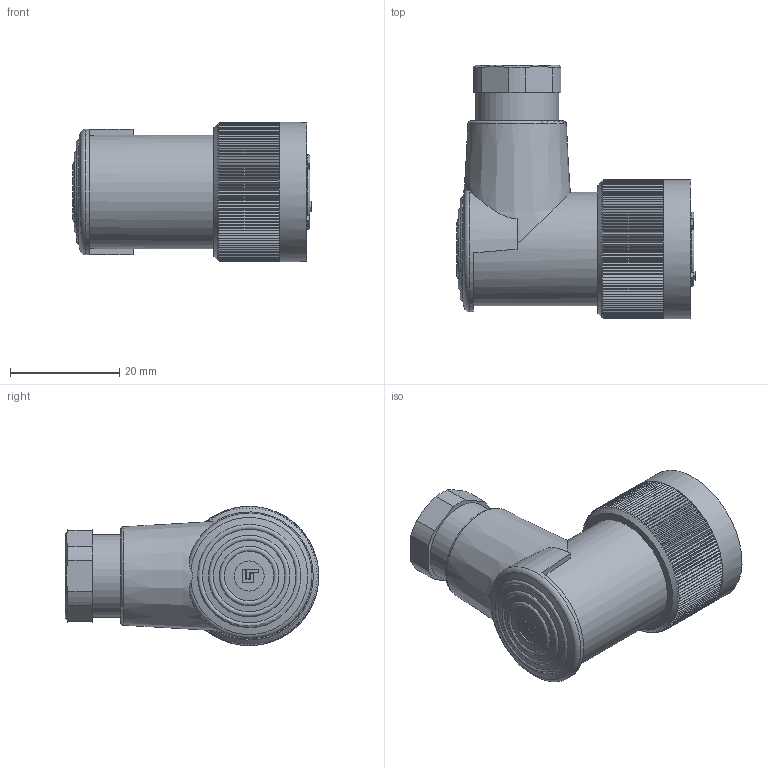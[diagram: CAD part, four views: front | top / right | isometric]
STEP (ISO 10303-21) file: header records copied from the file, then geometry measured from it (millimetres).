
FILE_DESCRIPTION((''),'2;1');
FILE_NAME('C:\TurckZip\B82-M18.stp','2011-04-12T09:56:41',('IKOROL'),(''),'Autodesk Inventor 2010','Autodesk Inventor 2010','');
FILE_SCHEMA(('CONFIG_CONTROL_DESIGN'));
Length unit declared in the file: millimetre
Products named in the file (1): Part2
Bounding box: 43.62 x 46.45 x 25.5 mm (x, y, z)
Volume: 22225.6 mm3; surface area: 7578.3 mm2
Topology: 1 solids, 1 shells, 554 faces, 1585 edges, 1055 vertices
Faces by surface type: plane 491, cylinder 36, cone 13, torus 10, bspline 4
Full cylindrical faces by diameter (mm): 2.15 x4, 3.5 x1, 3.8 x1, 5.5 x1, 13.6 x1, 15.2 x1, 17.107 x1, 20.8 x1, 25.5 x1
Entity records: 18304 total; most frequent: CARTESIAN_POINT 3907, ORIENTED_EDGE 3080, DIRECTION 2756, EDGE_CURVE 1540, VERTEX_POINT 1038, AXIS2_PLACEMENT_3D 946, VECTOR 864, LINE 864
